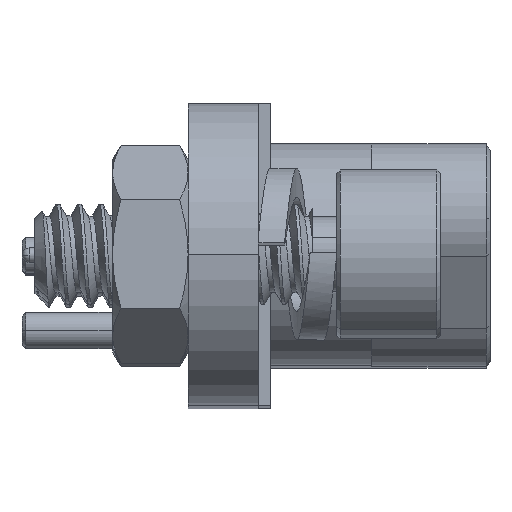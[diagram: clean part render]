
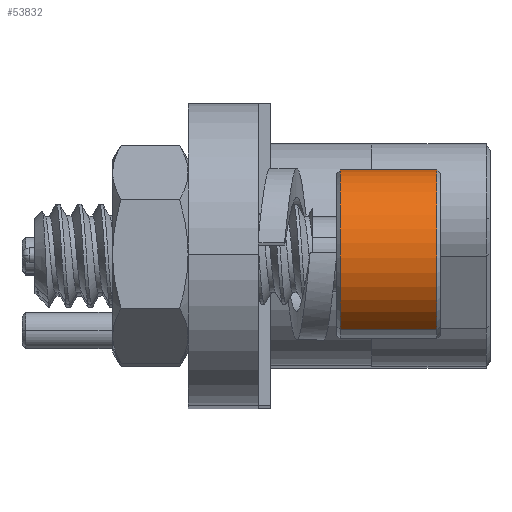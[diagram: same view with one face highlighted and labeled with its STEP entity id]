
A CAD part, top view. The second image highlights one B-rep face of the part: STEP entity #53832.
In plain terms, the highlighted cylindrical face has radius 1.778 mm (diameter 3.556 mm), a partial arc.
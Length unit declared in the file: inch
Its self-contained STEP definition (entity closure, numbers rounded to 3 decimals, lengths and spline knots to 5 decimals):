
#3109 = CARTESIAN_POINT ( 'NONE',  ( 0.206, 0.18722, -0.12458 ) ) ;
#4051 = DIRECTION ( 'NONE',  ( 1., 0., 0. ) ) ;
#9291 = CIRCLE ( 'NONE', #74779, 0.07 ) ;
#12177 = CARTESIAN_POINT ( 'NONE',  ( 0.126, 0.06278, -0.06042 ) ) ;
#12802 = CARTESIAN_POINT ( 'NONE',  ( 0.209, 0.06278, -0.06042 ) ) ;
#14538 = VECTOR ( 'NONE', #15641, 39.37008 ) ;
#15641 = DIRECTION ( 'NONE',  ( 1., 0., 0. ) ) ;
#15783 = CARTESIAN_POINT ( 'NONE',  ( 0.206, 0.125, -0.0925 ) ) ;
#15999 = ORIENTED_EDGE ( 'NONE', *, *, #58166, .T. ) ;
#17188 = DIRECTION ( 'NONE',  ( 0., -0.889, 0.458 ) ) ;
#24142 = FACE_OUTER_BOUND ( 'NONE', #60074, .T. ) ;
#25753 = AXIS2_PLACEMENT_3D ( 'NONE', #31317, #4051, #33193 ) ;
#28671 = DIRECTION ( 'NONE',  ( 1., 0., 0. ) ) ;
#29091 = VERTEX_POINT ( 'NONE', #3109 ) ;
#29494 = ORIENTED_EDGE ( 'NONE', *, *, #70442, .F. ) ;
#31252 = CARTESIAN_POINT ( 'NONE',  ( 0.126, 0.18722, -0.12458 ) ) ;
#31317 = CARTESIAN_POINT ( 'NONE',  ( 0.209, 0.125, -0.0925 ) ) ;
#32852 = VERTEX_POINT ( 'NONE', #12177 ) ;
#33193 = DIRECTION ( 'NONE',  ( 0., 0.889, -0.458 ) ) ;
#35819 = DIRECTION ( 'NONE',  ( 0., 0.889, -0.458 ) ) ;
#38615 = EDGE_CURVE ( 'NONE', #32852, #70005, #42829, .T. ) ;
#42829 = LINE ( 'NONE', #12802, #93018 ) ;
#53832 = ADVANCED_FACE ( 'NONE', ( #24142 ), #90833, .T. ) ;
#55483 = ORIENTED_EDGE ( 'NONE', *, *, #77588, .T. ) ;
#58166 = EDGE_CURVE ( 'NONE', #70780, #32852, #9291, .T. ) ;
#60074 = EDGE_LOOP ( 'NONE', ( #15999, #71308, #55483, #29494 ) ) ;
#60864 = LINE ( 'NONE', #88083, #14538 ) ;
#70005 = VERTEX_POINT ( 'NONE', #86798 ) ;
#70442 = EDGE_CURVE ( 'NONE', #70780, #29091, #60864, .T. ) ;
#70780 = VERTEX_POINT ( 'NONE', #31252 ) ;
#71308 = ORIENTED_EDGE ( 'NONE', *, *, #38615, .T. ) ;
#71871 = DIRECTION ( 'NONE',  ( 1., 0., 0. ) ) ;
#74779 = AXIS2_PLACEMENT_3D ( 'NONE', #80138, #28671, #35819 ) ;
#76919 = CIRCLE ( 'NONE', #86110, 0.07 ) ;
#77588 = EDGE_CURVE ( 'NONE', #70005, #29091, #76919, .T. ) ;
#80138 = CARTESIAN_POINT ( 'NONE',  ( 0.126, 0.125, -0.0925 ) ) ;
#82498 = DIRECTION ( 'NONE',  ( -1., 0., 0. ) ) ;
#86110 = AXIS2_PLACEMENT_3D ( 'NONE', #15783, #82498, #17188 ) ;
#86798 = CARTESIAN_POINT ( 'NONE',  ( 0.206, 0.06278, -0.06042 ) ) ;
#88083 = CARTESIAN_POINT ( 'NONE',  ( 0.209, 0.18722, -0.12458 ) ) ;
#90833 = CYLINDRICAL_SURFACE ( 'NONE', #25753, 0.07 ) ;
#93018 = VECTOR ( 'NONE', #71871, 39.37008 ) ;
